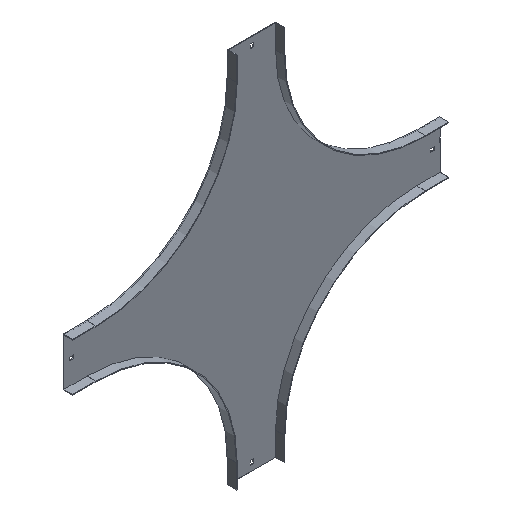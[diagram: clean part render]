
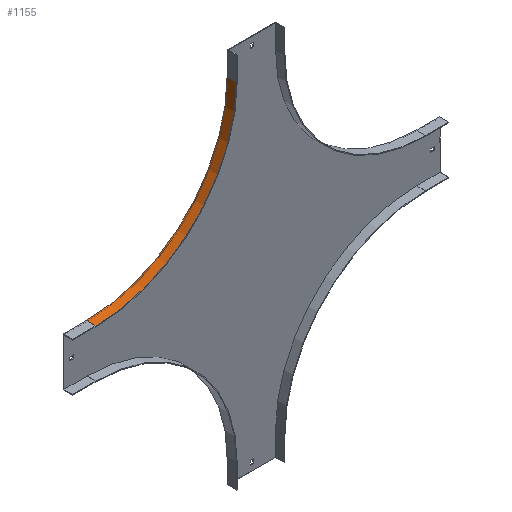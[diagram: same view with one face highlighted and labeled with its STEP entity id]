
A CAD part, isometric view. The second image highlights one B-rep face of the part: STEP entity #1155.
In plain terms, the highlighted cylindrical face has radius 298.5 mm (diameter 597 mm), a partial arc.
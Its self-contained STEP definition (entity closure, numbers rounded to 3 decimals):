
#123 = CARTESIAN_POINT ( 'NONE',  ( -700., 0., -298.5 ) ) ;
#125 = LINE ( 'NONE', #627, #1233 ) ;
#127 = EDGE_LOOP ( 'NONE', ( #858, #1305, #243, #139 ) ) ;
#139 = ORIENTED_EDGE ( 'NONE', *, *, #1495, .T. ) ;
#243 = ORIENTED_EDGE ( 'NONE', *, *, #319, .T. ) ;
#255 = CARTESIAN_POINT ( 'NONE',  ( -700., 0., 0. ) ) ;
#319 = EDGE_CURVE ( 'NONE', #1358, #898, #770, .T. ) ;
#437 = EDGE_CURVE ( 'NONE', #1358, #928, #125, .T. ) ;
#455 = CARTESIAN_POINT ( 'NONE',  ( -700., -20., 0. ) ) ;
#491 = AXIS2_PLACEMENT_3D ( 'NONE', #455, #1121, #1502 ) ;
#527 = AXIS2_PLACEMENT_3D ( 'NONE', #804, #1198, #926 ) ;
#533 = CARTESIAN_POINT ( 'NONE',  ( -700., -20., -298.5 ) ) ;
#549 = VECTOR ( 'NONE', #1244, 1000. ) ;
#627 = CARTESIAN_POINT ( 'NONE',  ( -700., -20., -298.5 ) ) ;
#728 = CARTESIAN_POINT ( 'NONE',  ( -401.5, -20., 0. ) ) ;
#770 = CIRCLE ( 'NONE', #527, 298.5 ) ;
#804 = CARTESIAN_POINT ( 'NONE',  ( -700., -20., 0. ) ) ;
#806 = CARTESIAN_POINT ( 'NONE',  ( -401.5, 0., 0. ) ) ;
#858 = ORIENTED_EDGE ( 'NONE', *, *, #1219, .F. ) ;
#898 = VERTEX_POINT ( 'NONE', #1531 ) ;
#926 = DIRECTION ( 'NONE',  ( 0., 0., 1. ) ) ;
#928 = VERTEX_POINT ( 'NONE', #123 ) ;
#990 = CYLINDRICAL_SURFACE ( 'NONE', #491, 298.5 ) ;
#1035 = DIRECTION ( 'NONE',  ( 0., -1., 0. ) ) ;
#1068 = DIRECTION ( 'NONE',  ( 0., 0., 1. ) ) ;
#1118 = VERTEX_POINT ( 'NONE', #806 ) ;
#1121 = DIRECTION ( 'NONE',  ( 0., 1., 0. ) ) ;
#1122 = LINE ( 'NONE', #728, #549 ) ;
#1155 = ADVANCED_FACE ( 'NONE', ( #1364 ), #990, .F. ) ;
#1198 = DIRECTION ( 'NONE',  ( 0., -1., 0. ) ) ;
#1219 = EDGE_CURVE ( 'NONE', #928, #1118, #1227, .T. ) ;
#1227 = CIRCLE ( 'NONE', #1413, 298.5 ) ;
#1233 = VECTOR ( 'NONE', #1256, 1000. ) ;
#1244 = DIRECTION ( 'NONE',  ( 0., 1., 0. ) ) ;
#1256 = DIRECTION ( 'NONE',  ( 0., 1., 0. ) ) ;
#1305 = ORIENTED_EDGE ( 'NONE', *, *, #437, .F. ) ;
#1358 = VERTEX_POINT ( 'NONE', #533 ) ;
#1364 = FACE_OUTER_BOUND ( 'NONE', #127, .T. ) ;
#1413 = AXIS2_PLACEMENT_3D ( 'NONE', #255, #1035, #1068 ) ;
#1495 = EDGE_CURVE ( 'NONE', #898, #1118, #1122, .T. ) ;
#1502 = DIRECTION ( 'NONE',  ( 0., 0., 1. ) ) ;
#1531 = CARTESIAN_POINT ( 'NONE',  ( -401.5, -20., 0. ) ) ;
